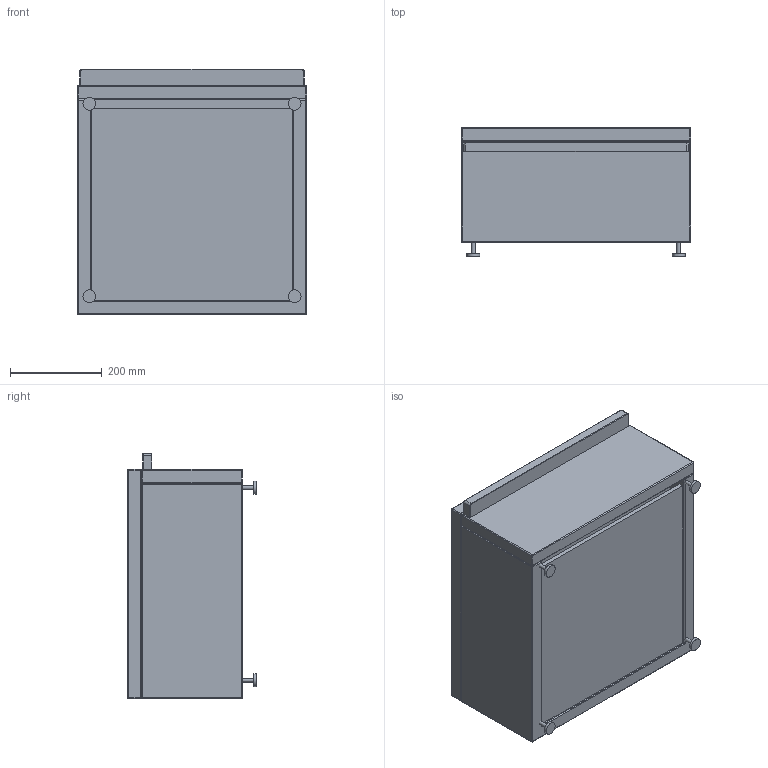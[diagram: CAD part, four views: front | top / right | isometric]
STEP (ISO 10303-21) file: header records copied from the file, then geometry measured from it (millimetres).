
FILE_DESCRIPTION(/* description */ (''),/* implementation_level */ '2;1');
FILE_NAME(/* name */ 'C:\INVENTOR\Workspace\# ARKITEKT FILER\Modules\Drawer X\Drawer X.stp',/* time_stamp */ '2020-05-26T16:24:10+02:00',/* author */ ('Röshults'),/* organization */ (''),/* preprocessor_version */ 'ST-DEVELOPER v17.2',/* originating_system */ 'Autodesk Inventor 2019',/* authorisation */ '');
FILE_SCHEMA (('AUTOMOTIVE_DESIGN { 1 0 10303 214 3 1 1 }'));
Length unit declared in the file: millimetre
Products named in the file (4): Drawer X; Drawer X Base; Module Drawer Låda; 100288
Assembly tree (6 placements, depth 2):
  Drawer X
    Drawer X Base
    Module Drawer Låda
    100288  x4
Bounding box: 500 x 281 x 535 mm (x, y, z)
Volume: 27757547.5 mm3; surface area: 2452374.4 mm2
Topology: 6 solids, 6 shells, 168 faces, 362 edges, 212 vertices
Faces by surface type: cylinder 73, plane 59, sphere 28, torus 8
Full cylindrical faces by diameter (mm): 8 x4, 28 x4
Entity records: 4300 total; most frequent: DIRECTION 802, CARTESIAN_POINT 683, ORIENTED_EDGE 664, EDGE_CURVE 332, AXIS2_PLACEMENT_3D 307, LINE 188, VECTOR 188, VERTEX_POINT 188
